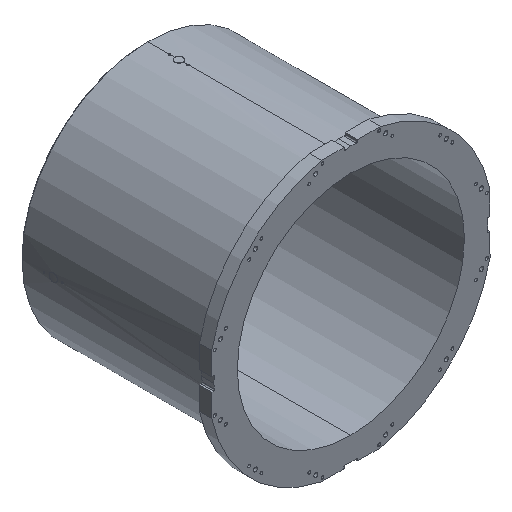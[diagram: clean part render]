
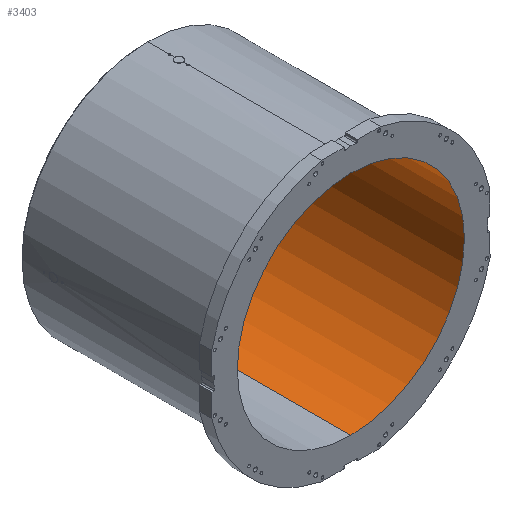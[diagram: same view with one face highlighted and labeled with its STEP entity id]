
A CAD part, isometric view. The second image highlights one B-rep face of the part: STEP entity #3403.
In plain terms, the highlighted cylindrical face has radius 555 mm (diameter 1110 mm), a partial arc.
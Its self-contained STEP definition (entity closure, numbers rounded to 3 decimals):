
#645 = DIRECTION ( 'NONE',  ( 0., -1., 0. ) ) ;
#700 = EDGE_CURVE ( 'NONE', #3154, #7298, #11511, .T. ) ;
#1675 = ORIENTED_EDGE ( 'NONE', *, *, #4832, .T. ) ;
#1865 = CARTESIAN_POINT ( 'NONE',  ( 0., 0., -555. ) ) ;
#2228 = AXIS2_PLACEMENT_3D ( 'NONE', #9279, #13613, #3918 ) ;
#3154 = VERTEX_POINT ( 'NONE', #1865 ) ;
#3403 = ADVANCED_FACE ( 'NONE', ( #9204 ), #3911, .F. ) ;
#3411 = ORIENTED_EDGE ( 'NONE', *, *, #10400, .T. ) ;
#3826 = DIRECTION ( 'NONE',  ( 0., 0., -1. ) ) ;
#3911 = CYLINDRICAL_SURFACE ( 'NONE', #4944, 555. ) ;
#3918 = DIRECTION ( 'NONE',  ( 0., 0., -1. ) ) ;
#4136 = VECTOR ( 'NONE', #6370, 1000. ) ;
#4356 = CIRCLE ( 'NONE', #11790, 555. ) ;
#4832 = EDGE_CURVE ( 'NONE', #6616, #3154, #6744, .T. ) ;
#4944 = AXIS2_PLACEMENT_3D ( 'NONE', #13684, #645, #3826 ) ;
#5503 = CARTESIAN_POINT ( 'NONE',  ( 0., 0., 555. ) ) ;
#5565 = ORIENTED_EDGE ( 'NONE', *, *, #700, .T. ) ;
#6178 = CARTESIAN_POINT ( 'NONE',  ( 0., 0., 555. ) ) ;
#6370 = DIRECTION ( 'NONE',  ( 0., -1., 0. ) ) ;
#6470 = DIRECTION ( 'NONE',  ( 0., -1., 0. ) ) ;
#6616 = VERTEX_POINT ( 'NONE', #11331 ) ;
#6744 = LINE ( 'NONE', #9797, #8383 ) ;
#6998 = EDGE_LOOP ( 'NONE', ( #12771, #3411, #1675, #5565 ) ) ;
#7298 = VERTEX_POINT ( 'NONE', #5503 ) ;
#8134 = CARTESIAN_POINT ( 'NONE',  ( 0., 944., 555. ) ) ;
#8383 = VECTOR ( 'NONE', #6470, 1000. ) ;
#8469 = VERTEX_POINT ( 'NONE', #8134 ) ;
#9111 = EDGE_CURVE ( 'NONE', #8469, #7298, #10558, .T. ) ;
#9204 = FACE_OUTER_BOUND ( 'NONE', #6998, .T. ) ;
#9279 = CARTESIAN_POINT ( 'NONE',  ( 0., 0., 0. ) ) ;
#9797 = CARTESIAN_POINT ( 'NONE',  ( 0., 0., -555. ) ) ;
#9825 = CARTESIAN_POINT ( 'NONE',  ( 0., 944., 0. ) ) ;
#9892 = DIRECTION ( 'NONE',  ( 0., 0., -1. ) ) ;
#10400 = EDGE_CURVE ( 'NONE', #8469, #6616, #4356, .T. ) ;
#10558 = LINE ( 'NONE', #6178, #4136 ) ;
#11331 = CARTESIAN_POINT ( 'NONE',  ( 0., 944., -555. ) ) ;
#11511 = CIRCLE ( 'NONE', #2228, 555. ) ;
#11790 = AXIS2_PLACEMENT_3D ( 'NONE', #9825, #12057, #9892 ) ;
#12057 = DIRECTION ( 'NONE',  ( 0., 1., 0. ) ) ;
#12771 = ORIENTED_EDGE ( 'NONE', *, *, #9111, .F. ) ;
#13613 = DIRECTION ( 'NONE',  ( 0., -1., 0. ) ) ;
#13684 = CARTESIAN_POINT ( 'NONE',  ( 0., 0., 0. ) ) ;
